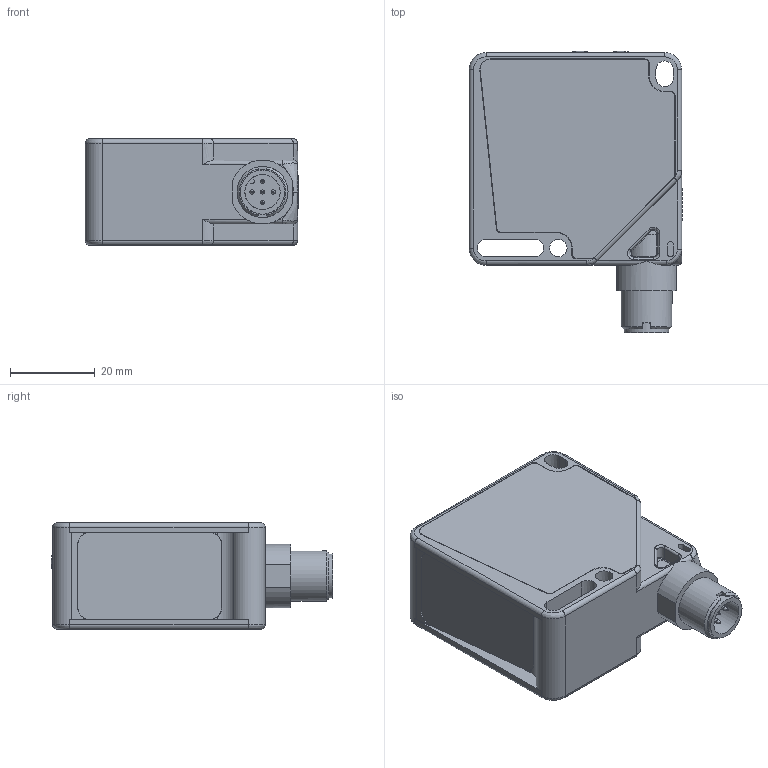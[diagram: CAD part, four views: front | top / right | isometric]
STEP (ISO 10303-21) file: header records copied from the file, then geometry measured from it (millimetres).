
FILE_DESCRIPTION(/* description */ (''),/* implementation_level */ '2;1');
FILE_NAME(/* name */ 'AP008727_00_DSD-0681.stp',/* time_stamp */ '2015-10-07T15:23:35+02:00',/* author */ (''),/* organization */ (''),/* preprocessor_version */ 'ST-DEVELOPER v16',/* originating_system */ 'SIEMENS PLM Software NX 10.0',/* authorisation */ '');
FILE_SCHEMA (('AUTOMOTIVE_DESIGN { 1 0 10303 214 3 1 1 1 }'));
Length unit declared in the file: millimetre
Products named in the file (1): AP008727_00
Bounding box: 50.3 x 66.25 x 25 mm (x, y, z)
Volume: 56503.4 mm3; surface area: 14463 mm2
Topology: 1 solids, 8 shells, 374 faces, 937 edges, 593 vertices
Faces by surface type: plane 167, cylinder 123, bspline 44, cone 22, torus 11, sphere 7
Full cylindrical faces by diameter (mm): 1 x5, 4 x5, 8 x1, 8.3 x1, 9.4 x1, 9.5 x1, 10.4 x1, 12 x1
Entity records: 12302 total; most frequent: CARTESIAN_POINT 3446, ORIENTED_EDGE 1762, DIRECTION 1681, EDGE_CURVE 881, AXIS2_PLACEMENT_3D 641, VERTEX_POINT 571, EDGE_LOOP 432, LINE 399
